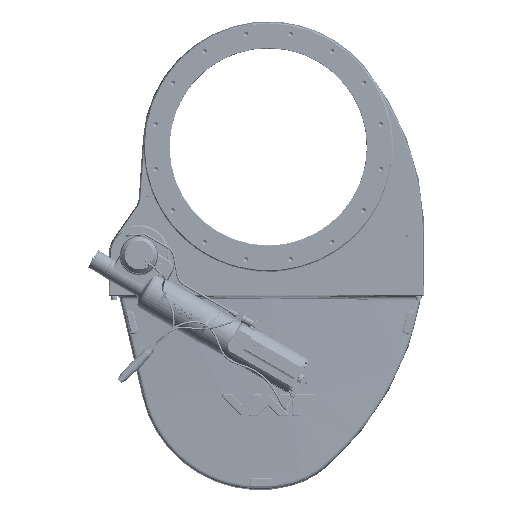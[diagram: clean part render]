
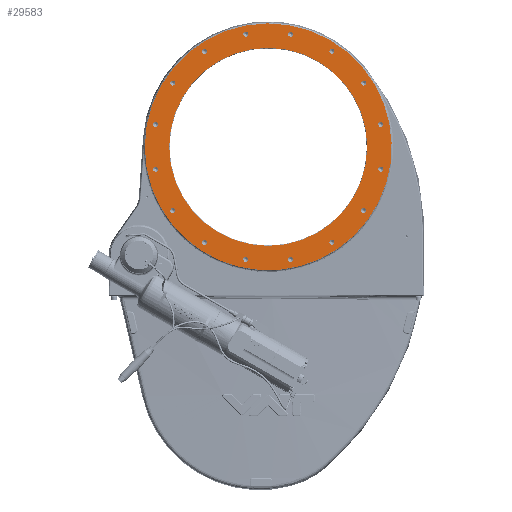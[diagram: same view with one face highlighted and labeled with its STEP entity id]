
A CAD part, top view. The second image highlights one B-rep face of the part: STEP entity #29583.
In plain terms, the highlighted planar face has unit normal (0, 0, 1).
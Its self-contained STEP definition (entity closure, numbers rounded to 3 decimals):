
#15498=PLANE('',#92124);
#25369=FACE_BOUND('',#38618,.T.);
#25370=FACE_BOUND('',#38619,.T.);
#25371=FACE_BOUND('',#38620,.T.);
#25372=FACE_BOUND('',#38621,.T.);
#25373=FACE_BOUND('',#38622,.T.);
#25374=FACE_BOUND('',#38623,.T.);
#25375=FACE_BOUND('',#38624,.T.);
#25376=FACE_BOUND('',#38625,.T.);
#25377=FACE_BOUND('',#38626,.T.);
#25378=FACE_BOUND('',#38627,.T.);
#25379=FACE_BOUND('',#38628,.T.);
#25380=FACE_BOUND('',#38629,.T.);
#25381=FACE_BOUND('',#38630,.T.);
#25382=FACE_BOUND('',#38631,.T.);
#25383=FACE_BOUND('',#38632,.T.);
#25384=FACE_BOUND('',#38633,.T.);
#25385=FACE_BOUND('',#38634,.T.);
#25386=FACE_BOUND('',#38635,.T.);
#29583=ADVANCED_FACE('',(#25369,#25370,#25371,#25372,#25373,#25374,#25375,
#25376,#25377,#25378,#25379,#25380,#25381,#25382,#25383,#25384,#25385,#25386),
#15498,.F.);
#38618=EDGE_LOOP('',(#50161));
#38619=EDGE_LOOP('',(#50162));
#38620=EDGE_LOOP('',(#50163));
#38621=EDGE_LOOP('',(#50164));
#38622=EDGE_LOOP('',(#50165));
#38623=EDGE_LOOP('',(#50166));
#38624=EDGE_LOOP('',(#50167));
#38625=EDGE_LOOP('',(#50168));
#38626=EDGE_LOOP('',(#50169));
#38627=EDGE_LOOP('',(#50170));
#38628=EDGE_LOOP('',(#50171));
#38629=EDGE_LOOP('',(#50172));
#38630=EDGE_LOOP('',(#50173));
#38631=EDGE_LOOP('',(#50174));
#38632=EDGE_LOOP('',(#50175));
#38633=EDGE_LOOP('',(#50176));
#38634=EDGE_LOOP('',(#50177));
#38635=EDGE_LOOP('',(#50178));
#45492=CIRCLE('',#91969,344.063);
#45579=CIRCLE('',#92106,276.);
#45580=CIRCLE('',#92108,7.);
#45581=CIRCLE('',#92109,7.);
#45582=CIRCLE('',#92110,7.);
#45583=CIRCLE('',#92111,7.);
#45584=CIRCLE('',#92112,7.);
#45585=CIRCLE('',#92113,7.);
#45586=CIRCLE('',#92114,7.);
#45587=CIRCLE('',#92115,7.);
#45588=CIRCLE('',#92116,7.);
#45589=CIRCLE('',#92117,7.);
#45590=CIRCLE('',#92118,7.);
#45591=CIRCLE('',#92119,7.);
#45592=CIRCLE('',#92120,7.);
#45593=CIRCLE('',#92121,7.);
#45594=CIRCLE('',#92122,7.);
#45595=CIRCLE('',#92123,7.);
#50161=ORIENTED_EDGE('',*,*,#78635,.T.);
#50162=ORIENTED_EDGE('',*,*,#78636,.T.);
#50163=ORIENTED_EDGE('',*,*,#78637,.T.);
#50164=ORIENTED_EDGE('',*,*,#78638,.T.);
#50165=ORIENTED_EDGE('',*,*,#78639,.T.);
#50166=ORIENTED_EDGE('',*,*,#78640,.T.);
#50167=ORIENTED_EDGE('',*,*,#78641,.T.);
#50168=ORIENTED_EDGE('',*,*,#78642,.T.);
#50169=ORIENTED_EDGE('',*,*,#78643,.T.);
#50170=ORIENTED_EDGE('',*,*,#78644,.T.);
#50171=ORIENTED_EDGE('',*,*,#78645,.T.);
#50172=ORIENTED_EDGE('',*,*,#78646,.T.);
#50173=ORIENTED_EDGE('',*,*,#78647,.T.);
#50174=ORIENTED_EDGE('',*,*,#78648,.T.);
#50175=ORIENTED_EDGE('',*,*,#78649,.T.);
#50176=ORIENTED_EDGE('',*,*,#78650,.T.);
#50177=ORIENTED_EDGE('',*,*,#78634,.T.);
#50178=ORIENTED_EDGE('',*,*,#78524,.F.);
#70989=VERTEX_POINT('',#123092);
#71023=VERTEX_POINT('',#123690);
#71024=VERTEX_POINT('',#123693);
#71025=VERTEX_POINT('',#123695);
#71026=VERTEX_POINT('',#123697);
#71027=VERTEX_POINT('',#123699);
#71028=VERTEX_POINT('',#123701);
#71029=VERTEX_POINT('',#123703);
#71030=VERTEX_POINT('',#123705);
#71031=VERTEX_POINT('',#123707);
#71032=VERTEX_POINT('',#123709);
#71033=VERTEX_POINT('',#123711);
#71034=VERTEX_POINT('',#123713);
#71035=VERTEX_POINT('',#123715);
#71036=VERTEX_POINT('',#123717);
#71037=VERTEX_POINT('',#123719);
#71038=VERTEX_POINT('',#123721);
#71039=VERTEX_POINT('',#123723);
#78524=EDGE_CURVE('',#70989,#70989,#45492,.T.);
#78634=EDGE_CURVE('',#71023,#71023,#45579,.T.);
#78635=EDGE_CURVE('',#71024,#71024,#45580,.T.);
#78636=EDGE_CURVE('',#71025,#71025,#45581,.T.);
#78637=EDGE_CURVE('',#71026,#71026,#45582,.T.);
#78638=EDGE_CURVE('',#71027,#71027,#45583,.T.);
#78639=EDGE_CURVE('',#71028,#71028,#45584,.T.);
#78640=EDGE_CURVE('',#71029,#71029,#45585,.T.);
#78641=EDGE_CURVE('',#71030,#71030,#45586,.T.);
#78642=EDGE_CURVE('',#71031,#71031,#45587,.T.);
#78643=EDGE_CURVE('',#71032,#71032,#45588,.T.);
#78644=EDGE_CURVE('',#71033,#71033,#45589,.T.);
#78645=EDGE_CURVE('',#71034,#71034,#45590,.T.);
#78646=EDGE_CURVE('',#71035,#71035,#45591,.T.);
#78647=EDGE_CURVE('',#71036,#71036,#45592,.T.);
#78648=EDGE_CURVE('',#71037,#71037,#45593,.T.);
#78649=EDGE_CURVE('',#71038,#71038,#45594,.T.);
#78650=EDGE_CURVE('',#71039,#71039,#45595,.T.);
#91969=AXIS2_PLACEMENT_3D('',#123091,#100732,#100733);
#92106=AXIS2_PLACEMENT_3D('',#123689,#101007,#101008);
#92108=AXIS2_PLACEMENT_3D('',#123692,#101011,#101012);
#92109=AXIS2_PLACEMENT_3D('',#123694,#101013,#101014);
#92110=AXIS2_PLACEMENT_3D('',#123696,#101015,#101016);
#92111=AXIS2_PLACEMENT_3D('',#123698,#101017,#101018);
#92112=AXIS2_PLACEMENT_3D('',#123700,#101019,#101020);
#92113=AXIS2_PLACEMENT_3D('',#123702,#101021,#101022);
#92114=AXIS2_PLACEMENT_3D('',#123704,#101023,#101024);
#92115=AXIS2_PLACEMENT_3D('',#123706,#101025,#101026);
#92116=AXIS2_PLACEMENT_3D('',#123708,#101027,#101028);
#92117=AXIS2_PLACEMENT_3D('',#123710,#101029,#101030);
#92118=AXIS2_PLACEMENT_3D('',#123712,#101031,#101032);
#92119=AXIS2_PLACEMENT_3D('',#123714,#101033,#101034);
#92120=AXIS2_PLACEMENT_3D('',#123716,#101035,#101036);
#92121=AXIS2_PLACEMENT_3D('',#123718,#101037,#101038);
#92122=AXIS2_PLACEMENT_3D('',#123720,#101039,#101040);
#92123=AXIS2_PLACEMENT_3D('',#123722,#101041,#101042);
#92124=AXIS2_PLACEMENT_3D('',#123724,#101043,#101044);
#100732=DIRECTION('',(0.,0.,-1.));
#100733=DIRECTION('',(-1.,0.,0.));
#101007=DIRECTION('',(0.,0.,-1.));
#101008=DIRECTION('',(-1.,0.,0.));
#101011=DIRECTION('',(0.,0.,-1.));
#101012=DIRECTION('',(-0.924,0.383,0.));
#101013=DIRECTION('',(0.,0.,-1.));
#101014=DIRECTION('',(-0.707,0.707,0.));
#101015=DIRECTION('',(0.,0.,-1.));
#101016=DIRECTION('',(-0.383,0.924,0.));
#101017=DIRECTION('',(0.,0.,-1.));
#101018=DIRECTION('',(0.,1.,0.));
#101019=DIRECTION('',(0.,0.,-1.));
#101020=DIRECTION('',(0.383,0.924,0.));
#101021=DIRECTION('',(0.,0.,-1.));
#101022=DIRECTION('',(0.707,0.707,0.));
#101023=DIRECTION('',(0.,0.,-1.));
#101024=DIRECTION('',(0.924,0.383,0.));
#101025=DIRECTION('',(0.,0.,-1.));
#101026=DIRECTION('',(1.,0.,0.));
#101027=DIRECTION('',(0.,0.,-1.));
#101028=DIRECTION('',(0.924,-0.383,0.));
#101029=DIRECTION('',(0.,0.,-1.));
#101030=DIRECTION('',(0.707,-0.707,0.));
#101031=DIRECTION('',(0.,0.,-1.));
#101032=DIRECTION('',(0.383,-0.924,0.));
#101033=DIRECTION('',(0.,0.,-1.));
#101034=DIRECTION('',(0.,-1.,0.));
#101035=DIRECTION('',(0.,0.,-1.));
#101036=DIRECTION('',(-0.383,-0.924,0.));
#101037=DIRECTION('',(0.,0.,-1.));
#101038=DIRECTION('',(-0.707,-0.707,0.));
#101039=DIRECTION('',(0.,0.,-1.));
#101040=DIRECTION('',(-0.924,-0.383,0.));
#101041=DIRECTION('',(0.,0.,-1.));
#101042=DIRECTION('',(-1.,0.,0.));
#101043=DIRECTION('',(0.,0.,-1.));
#101044=DIRECTION('',(-1.,0.,0.));
#123091=CARTESIAN_POINT('',(0.,0.,60.));
#123092=CARTESIAN_POINT('',(-344.063,0.,60.));
#123689=CARTESIAN_POINT('',(0.,0.,60.));
#123690=CARTESIAN_POINT('',(-276.,0.,60.));
#123692=CARTESIAN_POINT('',(62.429,313.851,60.));
#123693=CARTESIAN_POINT('',(55.962,316.53,60.));
#123694=CARTESIAN_POINT('',(177.782,266.07,60.));
#123695=CARTESIAN_POINT('',(172.833,271.02,60.));
#123696=CARTESIAN_POINT('',(266.07,177.782,60.));
#123697=CARTESIAN_POINT('',(263.391,184.25,60.));
#123698=CARTESIAN_POINT('',(313.851,62.429,60.));
#123699=CARTESIAN_POINT('',(313.851,69.429,60.));
#123700=CARTESIAN_POINT('',(313.851,-62.429,60.));
#123701=CARTESIAN_POINT('',(316.53,-55.962,60.));
#123702=CARTESIAN_POINT('',(266.07,-177.782,60.));
#123703=CARTESIAN_POINT('',(271.02,-172.833,60.));
#123704=CARTESIAN_POINT('',(177.782,-266.07,60.));
#123705=CARTESIAN_POINT('',(184.25,-263.391,60.));
#123706=CARTESIAN_POINT('',(62.429,-313.851,60.));
#123707=CARTESIAN_POINT('',(69.429,-313.851,60.));
#123708=CARTESIAN_POINT('',(-62.429,-313.851,60.));
#123709=CARTESIAN_POINT('',(-55.962,-316.53,60.));
#123710=CARTESIAN_POINT('',(-177.782,-266.07,60.));
#123711=CARTESIAN_POINT('',(-172.833,-271.02,60.));
#123712=CARTESIAN_POINT('',(-266.07,-177.782,60.));
#123713=CARTESIAN_POINT('',(-263.391,-184.25,60.));
#123714=CARTESIAN_POINT('',(-313.851,-62.429,60.));
#123715=CARTESIAN_POINT('',(-313.851,-69.429,60.));
#123716=CARTESIAN_POINT('',(-313.851,62.429,60.));
#123717=CARTESIAN_POINT('',(-316.53,55.962,60.));
#123718=CARTESIAN_POINT('',(-266.07,177.782,60.));
#123719=CARTESIAN_POINT('',(-271.02,172.833,60.));
#123720=CARTESIAN_POINT('',(-177.782,266.07,60.));
#123721=CARTESIAN_POINT('',(-184.25,263.391,60.));
#123722=CARTESIAN_POINT('',(-62.429,313.851,60.));
#123723=CARTESIAN_POINT('',(-69.429,313.851,60.));
#123724=CARTESIAN_POINT('',(276.,0.,60.));
